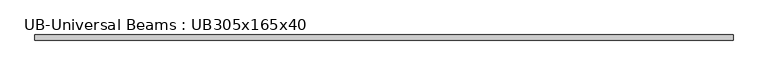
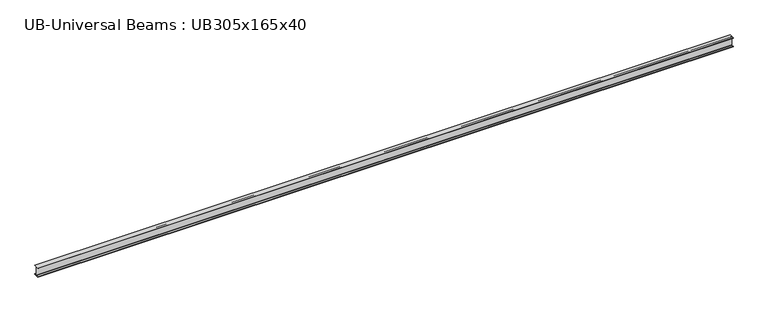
"""IFC4 building model written with IfcOpenShell, lengths in millimetres: beam geometry, UB-Universal Beams : UB305x165x40."""

from ifc_helpers import new_model, si_unit, point, frame, frame_2d, origin, place, context, project, spatial, polyline, circle_curve, trimmed, segment, composite_curve, outline, extrude, source, transform, mapped, element, save


def ub_universal_beams_ub305x165x40_a89eb652(model_context):
    return source(origin(), model_context, "Body", "SweptSolid", [
        extrude(outline(composite_curve([segment(polyline([(82.5, -141.5), (82.5, -151.7), (-82.5, -151.7), (-82.5, -141.5), (-11.9, -141.5)]), True, "CONTINUOUS"), segment(trimmed(circle_curve(frame_2d((-11.9, -132.6)), 8.9), [point((-11.9, -141.5))], [point((-3.0, -132.6))], True, "CARTESIAN"), True, "CONTINUOUS"), segment(polyline([(-3.0, -132.6), (-3.0, 132.6)]), True, "CONTINUOUS"), segment(trimmed(circle_curve(frame_2d((-11.9, 132.6)), 8.9), [point((-3.0, 132.6))], [point((-11.9, 141.5))], True, "CARTESIAN"), True, "CONTINUOUS"), segment(polyline([(-11.9, 141.5), (-82.5, 141.5), (-82.5, 151.7), (82.5, 151.7), (82.5, 141.5), (11.9, 141.5)]), True, "CONTINUOUS"), segment(trimmed(circle_curve(frame_2d((11.9, 132.6)), 8.9), [point((11.9, 141.5))], [point((3.0, 132.6))], True, "CARTESIAN"), True, "CONTINUOUS"), segment(polyline([(3.0, 132.6), (3.0, -132.6)]), True, "CONTINUOUS"), segment(trimmed(circle_curve(frame_2d((11.9, -132.6)), 8.9), [point((3.0, -132.6))], [point((11.9, -141.5))], True, "CARTESIAN"), True, "CONTINUOUS"), segment(polyline([(11.9, -141.5), (82.5, -141.5)]), True, "CONTINUOUS")], self_intersect=False)), frame((-16653.45, 0.0, 0.0), z_axis=(1.0, 0.0, 0.0), x_axis=(0.0, 1.0, 0.0)), (0.0, 0.0, 1.0), 22342.8),
    ])


if __name__ == "__main__":
    model = new_model("IFC4")
    model_context = context("Model", 3, world=origin())
    ifc_project = project(units=[si_unit("LENGTHUNIT", "METRE", prefix="MILLI")], contexts=[model_context])
    site = spatial("IfcSite", under=ifc_project)
    building = spatial("IfcBuilding", under=site)
    placement = place(None, origin())
    ub_universal_beams_ub305x165x40_shape = ub_universal_beams_ub305x165x40_a89eb652(model_context)
    element("IfcBeam", 1, ObjectType="UB-Universal Beams : UB305x165x40", at=placement, inside=building, context=model_context, shape_type="MappedRepresentation", body=[
        mapped(ub_universal_beams_ub305x165x40_shape, transform((0.0, 0.0, 0.0), x_axis=(1.0, 0.0, 0.0), y_axis=(0.0, 1.0, 0.0), z_axis=(0.0, 0.0, 1.0))),
    ])
    save(model, "model.ifc")
